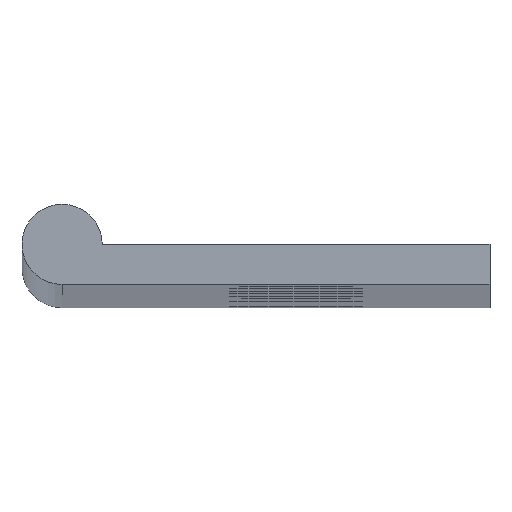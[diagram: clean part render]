
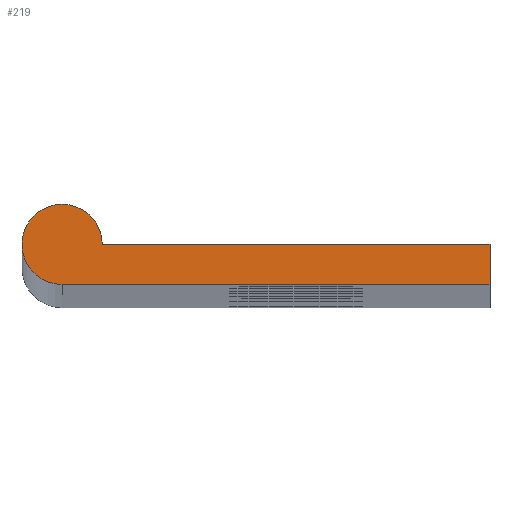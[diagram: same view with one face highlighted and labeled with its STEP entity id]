
A CAD part, top view. The second image highlights one B-rep face of the part: STEP entity #219.
In plain terms, the highlighted planar face has unit normal (0, 0, 1).
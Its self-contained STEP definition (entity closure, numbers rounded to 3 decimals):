
#11 = FACE_OUTER_BOUND ( 'NONE', #17, .T. ) ;
#14 = AXIS2_PLACEMENT_3D ( 'NONE', #304, #511, #471 ) ;
#17 = EDGE_LOOP ( 'NONE', ( #228, #358, #273, #38 ) ) ;
#18 = CARTESIAN_POINT ( 'NONE',  ( 16., -1.5, 250. ) ) ;
#38 = ORIENTED_EDGE ( 'NONE', *, *, #243, .T. ) ;
#84 = EDGE_CURVE ( 'NONE', #362, #86, #224, .T. ) ;
#86 = VERTEX_POINT ( 'NONE', #370 ) ;
#88 = VECTOR ( 'NONE', #516, 1000. ) ;
#160 = LINE ( 'NONE', #498, #240 ) ;
#195 = CARTESIAN_POINT ( 'NONE',  ( 1.5, 0., 250. ) ) ;
#200 = DIRECTION ( 'NONE',  ( -1., 0., 0. ) ) ;
#219 = ADVANCED_FACE ( 'NONE', ( #11 ), #387, .F. ) ;
#224 = CIRCLE ( 'NONE', #458, 1.5 ) ;
#226 = CARTESIAN_POINT ( 'NONE',  ( 16., 0., 250. ) ) ;
#228 = ORIENTED_EDGE ( 'NONE', *, *, #404, .T. ) ;
#240 = VECTOR ( 'NONE', #531, 1000. ) ;
#243 = EDGE_CURVE ( 'NONE', #86, #315, #250, .T. ) ;
#250 = LINE ( 'NONE', #381, #440 ) ;
#273 = ORIENTED_EDGE ( 'NONE', *, *, #84, .T. ) ;
#286 = CARTESIAN_POINT ( 'NONE',  ( 0., 0., 250. ) ) ;
#289 = VERTEX_POINT ( 'NONE', #485 ) ;
#304 = CARTESIAN_POINT ( 'NONE',  ( 0., 0., 250. ) ) ;
#315 = VERTEX_POINT ( 'NONE', #18 ) ;
#358 = ORIENTED_EDGE ( 'NONE', *, *, #424, .T. ) ;
#362 = VERTEX_POINT ( 'NONE', #195 ) ;
#370 = CARTESIAN_POINT ( 'NONE',  ( 0., -1.5, 250. ) ) ;
#381 = CARTESIAN_POINT ( 'NONE',  ( 16., -1.5, 250. ) ) ;
#387 = PLANE ( 'NONE',  #14 ) ;
#404 = EDGE_CURVE ( 'NONE', #315, #289, #519, .T. ) ;
#417 = DIRECTION ( 'NONE',  ( 1., 0., 0. ) ) ;
#424 = EDGE_CURVE ( 'NONE', #289, #362, #160, .T. ) ;
#440 = VECTOR ( 'NONE', #417, 1000. ) ;
#446 = DIRECTION ( 'NONE',  ( 0., 0., 1. ) ) ;
#458 = AXIS2_PLACEMENT_3D ( 'NONE', #286, #446, #200 ) ;
#471 = DIRECTION ( 'NONE',  ( -1., 0., 0. ) ) ;
#485 = CARTESIAN_POINT ( 'NONE',  ( 16., 0., 250. ) ) ;
#498 = CARTESIAN_POINT ( 'NONE',  ( 1.5, 0., 250. ) ) ;
#511 = DIRECTION ( 'NONE',  ( 0., 0., -1. ) ) ;
#516 = DIRECTION ( 'NONE',  ( 0., 1., 0. ) ) ;
#519 = LINE ( 'NONE', #226, #88 ) ;
#531 = DIRECTION ( 'NONE',  ( -1., 0., 0. ) ) ;
